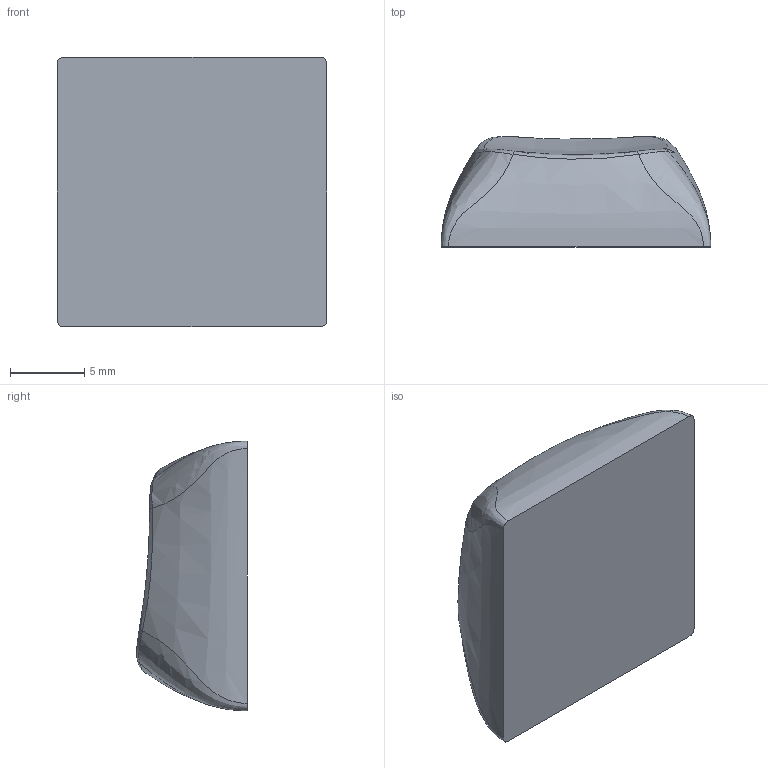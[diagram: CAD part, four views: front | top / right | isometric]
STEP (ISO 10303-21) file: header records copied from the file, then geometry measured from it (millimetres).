
FILE_DESCRIPTION (( 'STEP AP203' ), '1' );
FILE_NAME ('R3_1U_base_v3.2_GMK.STEP', '2023-03-07T10:07:51', ( '' ), ( '' ), 'SwSTEP 2.0', 'SolidWorks 2022', '' );
FILE_SCHEMA (( 'CONFIG_CONTROL_DESIGN' ));
Length unit declared in the file: millimetre
Products named in the file (1): R3_1U_base_v3.2_GMK
Bounding box: 18.2 x 7.47 x 18.2 mm (x, y, z)
Volume: 1795 mm3; surface area: 965.9 mm2
Topology: 1 solids, 1 shells, 18 faces, 40 edges, 24 vertices
Faces by surface type: bspline 17, plane 1
Entity records: 2378 total; most frequent: CARTESIAN_POINT 2035, ORIENTED_EDGE 80, EDGE_CURVE 40, B_SPLINE_CURVE_WITH_KNOTS 36, VERTEX_POINT 24, EDGE_LOOP 18, FACE_OUTER_BOUND 18, ADVANCED_FACE 18
